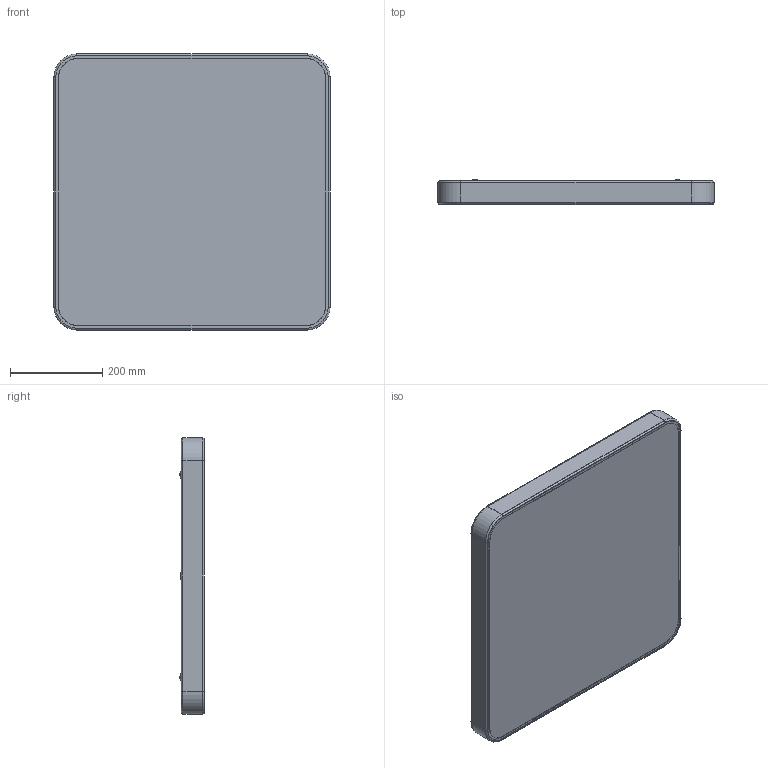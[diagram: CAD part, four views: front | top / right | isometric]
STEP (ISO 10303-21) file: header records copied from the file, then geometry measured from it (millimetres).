
FILE_DESCRIPTION((''),'2;1');
FILE_NAME('600_ASM','2026-03-17T17:04:10',('Administrator'),(''),'CREO PARAMETRIC BY PTC INC, 2021164','CREO PARAMETRIC BY PTC INC, 2021164','');
FILE_SCHEMA(('CONFIG_CONTROL_DESIGN','SHAPE_APPEARANCE_LAYERS_GROUPS'));
Length unit declared in the file: millimetre
Products named in the file (3): PRT0001___; PRT0002___; 600_ASM
Assembly tree (2 placements, depth 2):
  600_ASM
    PRT0001___
    PRT0002___
Bounding box: 600 x 53.47 x 600 mm (x, y, z)
Volume: 788076.1 mm3; surface area: 1673121.7 mm2
Topology: 2 solids, 2 shells, 119 faces, 280 edges, 170 vertices
Faces by surface type: cylinder 56, plane 33, torus 22, sphere 8
Entity records: 5244 total; most frequent: DIRECTION 680, CARTESIAN_POINT 574, ORIENTED_EDGE 560, PRESENTATION_STYLE_ASSIGNMENT 401, STYLED_ITEM 401, CURVE_STYLE 280, EDGE_CURVE 280, AXIS2_PLACEMENT_3D 276
